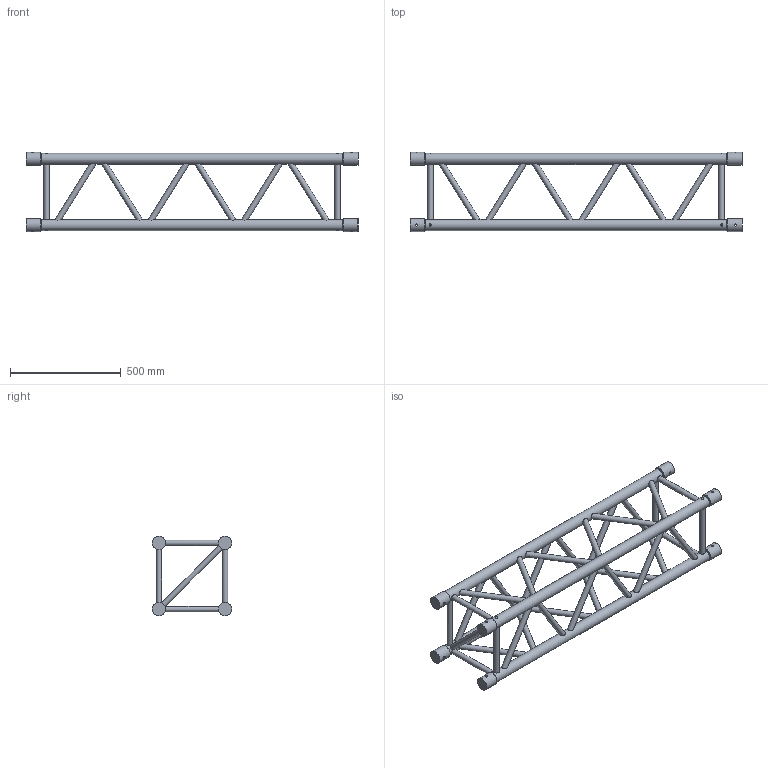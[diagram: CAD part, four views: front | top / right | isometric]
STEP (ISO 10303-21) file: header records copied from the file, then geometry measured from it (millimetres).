
FILE_DESCRIPTION(/* description */ (''),/* implementation_level */ '2;1');
FILE_NAME(/* name */ 'C:\Users\adrian.toca\Desktop\111110065.stp',/* time_stamp */ '2016-09-09T12:45:25+03:00',/* author */ ('adrian.toca'),/* organization */ (''),/* preprocessor_version */ 'ST-DEVELOPER v15.6',/* originating_system */ 'Autodesk Inventor 2015',/* authorisation */ '');
FILE_SCHEMA (('AUTOMOTIVE_DESIGN { 1 0 10303 214 3 1 1 }'));
Length unit declared in the file: millimetre
Products named in the file (1): 260030874
Bounding box: 1500 x 357.8 x 357.8 mm (x, y, z)
Volume: 3904060.6 mm3; surface area: 1773267.4 mm2
Topology: 3 solids, 6 shells, 186 faces, 468 edges, 294 vertices
Faces by surface type: cylinder 106, plane 72, cone 8
Full cylindrical faces by diameter (mm): 10 x8, 25 x34, 50 x4, 58.8 x8
Entity records: 7726 total; most frequent: CARTESIAN_POINT 3985, DIRECTION 660, ORIENTED_EDGE 648, EDGE_LOOP 336, AXIS2_PLACEMENT_3D 311, EDGE_CURVE 298, VERTEX_POINT 220, FACE_BOUND 170
